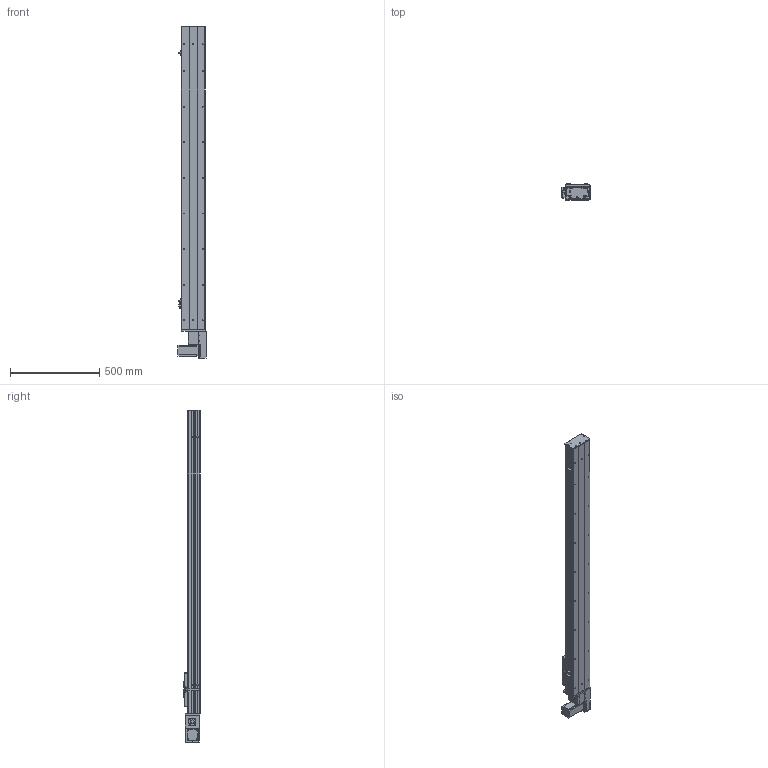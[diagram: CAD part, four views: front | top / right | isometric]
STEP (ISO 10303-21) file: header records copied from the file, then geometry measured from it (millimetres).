
FILE_DESCRIPTION (( 'STEP AP203' ), '1' );
FILE_NAME ('Y135CB-D90-S1400-BL-P400W.STEP', '2020-02-17T09:14:55', ( '微软用户' ), ( '微软中国' ), 'SwSTEP 2.0', 'SolidWorks 2017', '' );
FILE_SCHEMA (( 'CONFIG_CONTROL_DESIGN' ));
Length unit declared in the file: millimetre
Products named in the file (18): 0B-萇儂楊擘啣; 5CB --掛极耜裔啣-; Y135CB-耜裔; san松下电机400不带刹车----; C-詩湍揤踡え-陔; 135CB---遴掛极.-; 135CB--詩湍-CE; 35CB---喘謫眊楊擘啣; Y100-135俋离換覜ん--; Y10B--々湍喘謫眊--666; Y135C-陔俋离換覜結え-; Y10B-耜蚾蟀諉啣----; 5C--俋欶; Y俋欶BR----; C-雄赽釱--; 0B-埴倛裔啣; Y135CB-D90-S1400-BL-P400W; 0B-源倛裔啣
Assembly tree (21 placements, depth 2):
  Y135CB-D90-S1400-BL-P400W
    Y135CB-耜裔
    135CB---遴掛极.-
    35CB---喘謫眊楊擘啣
    Y10B--々湍喘謫眊--666
    Y10B-耜蚾蟀諉啣----
    Y俋欶BR----
    0B-埴倛裔啣
    0B-源倛裔啣
    0B-萇儂楊擘啣
    san松下电机400不带刹车----
    5CB --掛极耜裔啣-  x2
    C-詩湍揤踡え-陔  x2
    135CB--詩湍-CE
    Y100-135俋离換覜ん--  x3
    Y135C-陔俋离換覜結え-
    5C--俋欶
    C-雄赽釱--
Bounding box: 157.5 x 91 x 1864.5 mm (x, y, z)
Volume: 5426066.8 mm3; surface area: 2134334.4 mm2
Topology: 21 solids, 21 shells, 953 faces, 2563 edges, 1698 vertices
Faces by surface type: cylinder 479, plane 458, cone 16
Entity records: 29745 total; most frequent: DIRECTION 4939, CARTESIAN_POINT 4900, ORIENTED_EDGE 4602, EDGE_CURVE 2301, AXIS2_PLACEMENT_3D 1801, VERTEX_POINT 1526, LINE 1337, VECTOR 1337
